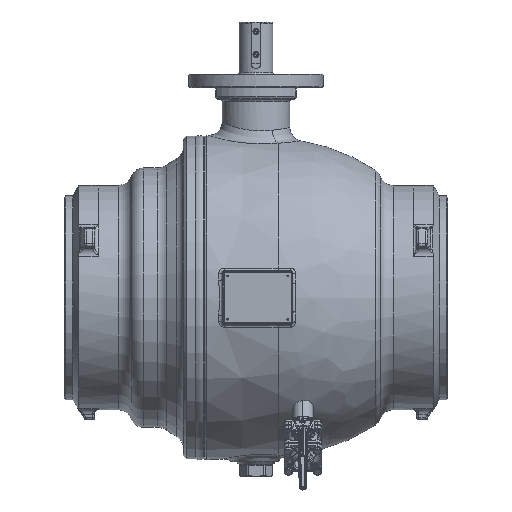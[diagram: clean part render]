
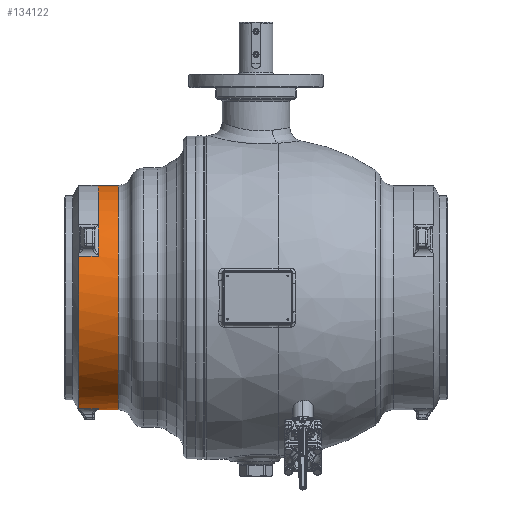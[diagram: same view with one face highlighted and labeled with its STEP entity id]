
A CAD part, front view. The second image highlights one B-rep face of the part: STEP entity #134122.
In plain terms, the highlighted cylindrical face has radius 335 mm (diameter 670 mm), a partial arc.
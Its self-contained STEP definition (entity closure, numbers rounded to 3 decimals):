
#27341=CARTESIAN_POINT('',(-529.179,0.,0.));
#27342=DIRECTION('',(-1.,0.,0.));
#27343=DIRECTION('',(0.,-0.144,-0.99));
#27344=AXIS2_PLACEMENT_3D('',#27341,#27342,#27343);
#27346=DIRECTION('',(1.,0.,0.));
#27347=VECTOR('',#27346,58.179);
#27348=CARTESIAN_POINT('',(-529.179,-311.232,
123.935));
#27349=LINE('',#27348,#27347);
#27350=CARTESIAN_POINT('',(-471.,0.,0.));
#27351=DIRECTION('',(-1.,0.,0.));
#27352=DIRECTION('',(0.,-0.76,0.65));
#27353=AXIS2_PLACEMENT_3D('',#27350,#27351,#27352);
#27355=DIRECTION('',(-1.,0.,0.));
#27356=VECTOR('',#27355,60.56);
#27357=CARTESIAN_POINT('',(-410.44,0.,335.));
#27358=LINE('',#27357,#27356);
#27359=CARTESIAN_POINT('',(-410.44,0.,0.));
#27360=DIRECTION('',(1.,0.,0.));
#27361=DIRECTION('',(0.,0.,1.));
#27362=AXIS2_PLACEMENT_3D('',#27359,#27360,#27361);
#27364=DIRECTION('',(-1.,0.,0.));
#27365=VECTOR('',#27364,60.56);
#27366=CARTESIAN_POINT('',(-410.44,0.,-335.));
#27367=LINE('',#27366,#27365);
#27368=DIRECTION('',(1.,0.,0.));
#27369=VECTOR('',#27368,58.179);
#27370=CARTESIAN_POINT('',(-529.179,-48.285,
-331.502));
#27371=LINE('',#27370,#27369);
#27690=CARTESIAN_POINT('',(-471.,-48.285,-331.502));
#27692=CARTESIAN_POINT('',(-471.,0.,0.));
#27693=DIRECTION('',(1.,0.,0.));
#27694=DIRECTION('',(0.,-0.144,-0.99));
#27695=AXIS2_PLACEMENT_3D('',#27692,#27693,#27694);
#28841=CARTESIAN_POINT('',(-471.,0.,0.));
#28842=DIRECTION('',(1.,0.,0.));
#28843=DIRECTION('',(0.,-0.76,0.65));
#28844=AXIS2_PLACEMENT_3D('',#28841,#28842,#28843);
#28974=CARTESIAN_POINT('',(-471.,-311.232,123.935));
#87916=CARTESIAN_POINT('',(-529.179,-48.285,
-331.502));
#87917=CARTESIAN_POINT('',(-529.179,-311.232,
123.935));
#87918=VERTEX_POINT('',#87916);
#87919=VERTEX_POINT('',#87917);
#87922=CARTESIAN_POINT('',(-410.44,0.,-335.));
#87923=CARTESIAN_POINT('',(-410.44,0.,335.));
#87924=VERTEX_POINT('',#87922);
#87925=VERTEX_POINT('',#87923);
#87942=CARTESIAN_POINT('',(-471.,0.,-335.));
#87943=VERTEX_POINT('',#87942);
#87944=CARTESIAN_POINT('',(-471.,0.,335.));
#87945=VERTEX_POINT('',#87944);
#87946=CARTESIAN_POINT('',(-471.,-254.721,217.583));
#87947=VERTEX_POINT('',#87946);
#88016=VERTEX_POINT('',#27690);
#88080=VERTEX_POINT('',#28974);
#134098=CARTESIAN_POINT('',(-119.45,0.,0.));
#134099=DIRECTION('',(-1.,0.,0.));
#134100=DIRECTION('',(0.,0.,1.));
#134101=AXIS2_PLACEMENT_3D('',#134098,#134099,#134100);
#134102=CYLINDRICAL_SURFACE('',#134101,335.);
#134104=ORIENTED_EDGE('',*,*,#134103,.T.);
#134106=ORIENTED_EDGE('',*,*,#134105,.T.);
#134108=ORIENTED_EDGE('',*,*,#134107,.F.);
#134110=ORIENTED_EDGE('',*,*,#134109,.T.);
#134112=ORIENTED_EDGE('',*,*,#134111,.F.);
#134113=ORIENTED_EDGE('',*,*,#134088,.T.);
#134115=ORIENTED_EDGE('',*,*,#134114,.T.);
#134117=ORIENTED_EDGE('',*,*,#134116,.F.);
#134119=ORIENTED_EDGE('',*,*,#134118,.F.);
#134120=EDGE_LOOP('',(#134104,#134106,#134108,#134110,#134112,#134113,#134115,
#134117,#134119));
#134121=FACE_OUTER_BOUND('',#134120,.F.);
#134122=ADVANCED_FACE('',(#134121),#134102,.T.);
#27345=CIRCLE('',#27344,335.);
#27354=CIRCLE('',#27353,335.);
#27363=CIRCLE('',#27362,335.);
#27696=CIRCLE('',#27695,335.);
#28845=CIRCLE('',#28844,335.);
#134088=EDGE_CURVE('',#87925,#87924,#27363,.T.);
#134103=EDGE_CURVE('',#87918,#87919,#27345,.T.);
#134105=EDGE_CURVE('',#87919,#88080,#27349,.T.);
#134107=EDGE_CURVE('',#87947,#88080,#28845,.T.);
#134109=EDGE_CURVE('',#87947,#87945,#27354,.T.);
#134111=EDGE_CURVE('',#87925,#87945,#27358,.T.);
#134114=EDGE_CURVE('',#87924,#87943,#27367,.T.);
#134116=EDGE_CURVE('',#88016,#87943,#27696,.T.);
#134118=EDGE_CURVE('',#87918,#88016,#27371,.T.);
